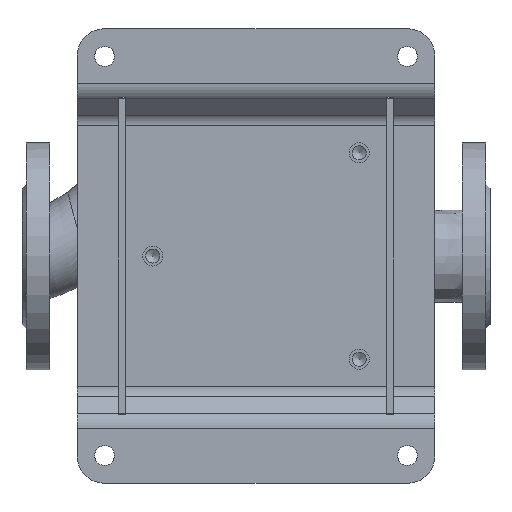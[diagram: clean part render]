
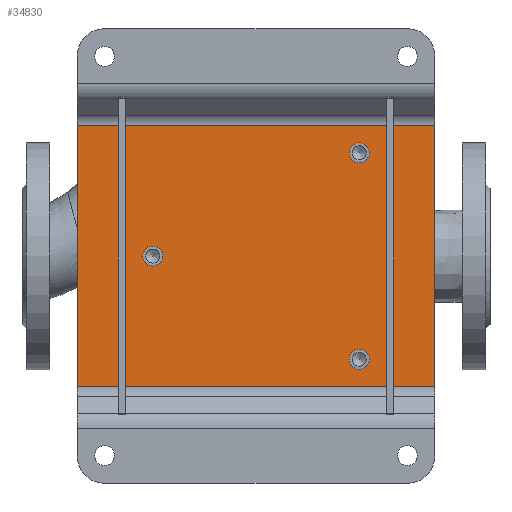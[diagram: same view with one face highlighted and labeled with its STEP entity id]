
A CAD part, top view. The second image highlights one B-rep face of the part: STEP entity #34830.
In plain terms, the highlighted planar face has unit normal (0, 0, 1) as drawn and (0, -1, 0) by its records, which use the part's own axes.
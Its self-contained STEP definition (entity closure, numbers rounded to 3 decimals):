
#324 = DIRECTION ( 'NONE',  ( 0., 0., -1. ) ) ;
#528 = LINE ( 'NONE', #12379, #9360 ) ;
#1303 = LINE ( 'NONE', #15868, #32694 ) ;
#1677 = FACE_BOUND ( 'NONE', #7393, .T. ) ;
#1823 = ORIENTED_EDGE ( 'NONE', *, *, #13253, .F. ) ;
#3411 = DIRECTION ( 'NONE',  ( 0., 0., -1. ) ) ;
#4021 = DIRECTION ( 'NONE',  ( 0., -1., 0. ) ) ;
#7393 = EDGE_LOOP ( 'NONE', ( #15102 ) ) ;
#7836 = CIRCLE ( 'NONE', #25879, 7.25 ) ;
#9251 = DIRECTION ( 'NONE',  ( 0., -1., 0. ) ) ;
#9360 = VECTOR ( 'NONE', #24265, 1000. ) ;
#9956 = CARTESIAN_POINT ( 'NONE',  ( -95., -5., 130. ) ) ;
#10390 = VECTOR ( 'NONE', #37192, 1000. ) ;
#10735 = LINE ( 'NONE', #31715, #10390 ) ;
#10750 = ORIENTED_EDGE ( 'NONE', *, *, #25592, .F. ) ;
#12121 = ORIENTED_EDGE ( 'NONE', *, *, #32197, .F. ) ;
#12379 = CARTESIAN_POINT ( 'NONE',  ( 95., -5., 130. ) ) ;
#13253 = EDGE_CURVE ( 'NONE', #22866, #21927, #528, .T. ) ;
#15102 = ORIENTED_EDGE ( 'NONE', *, *, #29078, .F. ) ;
#15188 = VERTEX_POINT ( 'NONE', #9956 ) ;
#15868 = CARTESIAN_POINT ( 'NONE',  ( -95., -5., 130. ) ) ;
#16118 = EDGE_CURVE ( 'NONE', #15188, #22866, #1303, .T. ) ;
#16440 = FACE_OUTER_BOUND ( 'NONE', #34863, .T. ) ;
#19609 = CARTESIAN_POINT ( 'NONE',  ( 95., -5., 130. ) ) ;
#20172 = CARTESIAN_POINT ( 'NONE',  ( 0., -5., -82.25 ) ) ;
#20551 = CARTESIAN_POINT ( 'NONE',  ( 75., -5., 67.75 ) ) ;
#21126 = VECTOR ( 'NONE', #29502, 1000. ) ;
#21674 = AXIS2_PLACEMENT_3D ( 'NONE', #31222, #37443, #22482 ) ;
#21924 = ORIENTED_EDGE ( 'NONE', *, *, #16118, .F. ) ;
#21927 = VERTEX_POINT ( 'NONE', #34471 ) ;
#22104 = DIRECTION ( 'NONE',  ( 1., 0., 0. ) ) ;
#22409 = CIRCLE ( 'NONE', #32302, 7.25 ) ;
#22482 = DIRECTION ( 'NONE',  ( 0., 0., -1. ) ) ;
#22533 = VERTEX_POINT ( 'NONE', #25660 ) ;
#22866 = VERTEX_POINT ( 'NONE', #19609 ) ;
#23292 = CARTESIAN_POINT ( 'NONE',  ( -95., -5., -130. ) ) ;
#23457 = VERTEX_POINT ( 'NONE', #20551 ) ;
#23851 = EDGE_LOOP ( 'NONE', ( #12121 ) ) ;
#24265 = DIRECTION ( 'NONE',  ( 0., 0., -1. ) ) ;
#24368 = CIRCLE ( 'NONE', #31193, 7.25 ) ;
#25078 = CARTESIAN_POINT ( 'NONE',  ( -95., -5., -130. ) ) ;
#25592 = EDGE_CURVE ( 'NONE', #22533, #22533, #22409, .T. ) ;
#25660 = CARTESIAN_POINT ( 'NONE',  ( -75., -5., 67.75 ) ) ;
#25879 = AXIS2_PLACEMENT_3D ( 'NONE', #35903, #9251, #33170 ) ;
#27553 = CARTESIAN_POINT ( 'NONE',  ( -75., -5., 75. ) ) ;
#27733 = PLANE ( 'NONE',  #21674 ) ;
#28596 = VERTEX_POINT ( 'NONE', #25078 ) ;
#29078 = EDGE_CURVE ( 'NONE', #37493, #37493, #24368, .T. ) ;
#29502 = DIRECTION ( 'NONE',  ( -1., 0., 0. ) ) ;
#31193 = AXIS2_PLACEMENT_3D ( 'NONE', #32581, #36291, #3411 ) ;
#31222 = CARTESIAN_POINT ( 'NONE',  ( 0., -5., 0. ) ) ;
#31715 = CARTESIAN_POINT ( 'NONE',  ( -95., -5., 130. ) ) ;
#32197 = EDGE_CURVE ( 'NONE', #23457, #23457, #7836, .T. ) ;
#32302 = AXIS2_PLACEMENT_3D ( 'NONE', #27553, #4021, #324 ) ;
#32581 = CARTESIAN_POINT ( 'NONE',  ( 0., -5., -75. ) ) ;
#32694 = VECTOR ( 'NONE', #22104, 1000. ) ;
#33170 = DIRECTION ( 'NONE',  ( 0., 0., -1. ) ) ;
#33266 = EDGE_CURVE ( 'NONE', #28596, #15188, #10735, .T. ) ;
#33743 = EDGE_LOOP ( 'NONE', ( #10750 ) ) ;
#34148 = FACE_BOUND ( 'NONE', #33743, .T. ) ;
#34471 = CARTESIAN_POINT ( 'NONE',  ( 95., -5., -130. ) ) ;
#34524 = FACE_BOUND ( 'NONE', #23851, .T. ) ;
#34830 = ADVANCED_FACE ( 'NONE', ( #34524, #1677, #34148, #16440 ), #27733, .T. ) ;
#34863 = EDGE_LOOP ( 'NONE', ( #1823, #21924, #35530, #36133 ) ) ;
#35346 = LINE ( 'NONE', #23292, #21126 ) ;
#35530 = ORIENTED_EDGE ( 'NONE', *, *, #33266, .F. ) ;
#35903 = CARTESIAN_POINT ( 'NONE',  ( 75., -5., 75. ) ) ;
#36133 = ORIENTED_EDGE ( 'NONE', *, *, #36530, .F. ) ;
#36291 = DIRECTION ( 'NONE',  ( 0., -1., 0. ) ) ;
#36530 = EDGE_CURVE ( 'NONE', #21927, #28596, #35346, .T. ) ;
#37192 = DIRECTION ( 'NONE',  ( 0., 0., 1. ) ) ;
#37443 = DIRECTION ( 'NONE',  ( 0., -1., 0. ) ) ;
#37493 = VERTEX_POINT ( 'NONE', #20172 ) ;
